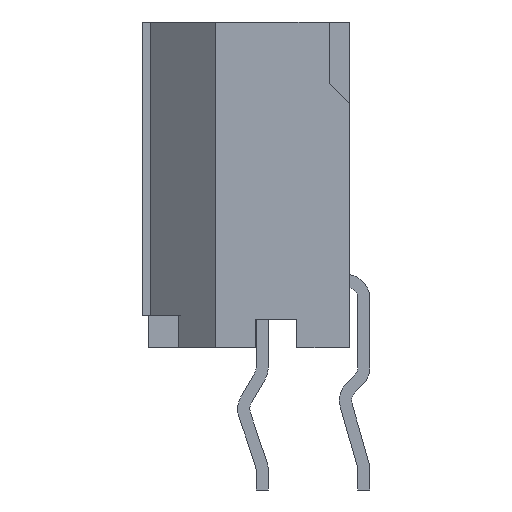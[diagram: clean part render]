
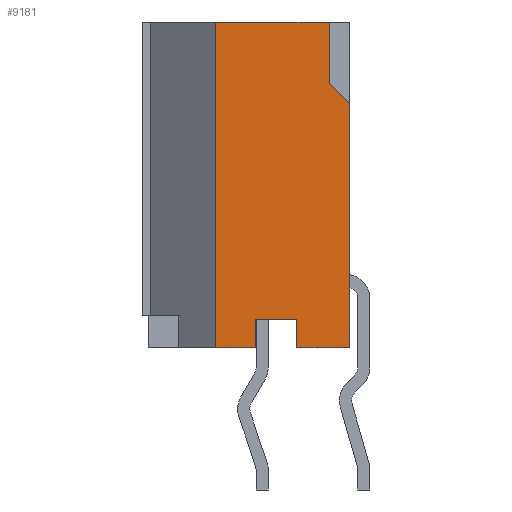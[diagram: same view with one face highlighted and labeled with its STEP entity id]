
A CAD part, left-side view. The second image highlights one B-rep face of the part: STEP entity #9181.
In plain terms, the highlighted planar face has unit normal (-1, 0, 0).
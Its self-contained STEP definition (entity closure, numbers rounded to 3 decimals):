
#21=DIRECTION('',(0.,-1.,0.));
#22=VECTOR('',#21,1.3);
#23=CARTESIAN_POINT('',(-7.325,1.3,-4.));
#24=LINE('',#23,#22);
#61=DIRECTION('',(0.,-1.,0.));
#62=VECTOR('',#61,1.);
#63=CARTESIAN_POINT('',(-7.325,3.3,-4.));
#64=LINE('',#63,#62);
#321=DIRECTION('',(0.,0.,1.));
#322=VECTOR('',#321,6.);
#323=CARTESIAN_POINT('',(-7.325,0.,-4.));
#324=LINE('',#323,#322);
#637=DIRECTION('',(0.,0.,-1.));
#638=VECTOR('',#637,1.5);
#639=CARTESIAN_POINT('',(-7.325,0.5,4.));
#640=LINE('',#639,#638);
#641=DIRECTION('',(0.,-0.707,-0.707));
#642=VECTOR('',#641,0.707);
#643=CARTESIAN_POINT('',(-7.325,0.5,2.5));
#644=LINE('',#643,#642);
#645=DIRECTION('',(0.,0.,1.));
#646=VECTOR('',#645,0.7);
#647=CARTESIAN_POINT('',(-7.325,1.3,-4.));
#648=LINE('',#647,#646);
#649=DIRECTION('',(0.,-1.,0.));
#650=VECTOR('',#649,1.);
#651=CARTESIAN_POINT('',(-7.325,2.3,-3.3));
#652=LINE('',#651,#650);
#653=DIRECTION('',(0.,0.,1.));
#654=VECTOR('',#653,0.7);
#655=CARTESIAN_POINT('',(-7.325,2.3,-4.));
#656=LINE('',#655,#654);
#657=DIRECTION('',(0.,0.,1.));
#658=VECTOR('',#657,8.);
#659=CARTESIAN_POINT('',(-7.325,3.3,-4.));
#660=LINE('',#659,#658);
#1057=DIRECTION('',(0.,-1.,0.));
#1058=VECTOR('',#1057,2.8);
#1059=CARTESIAN_POINT('',(-7.325,3.3,4.));
#1060=LINE('',#1059,#1058);
#6467=CARTESIAN_POINT('',(-7.325,3.3,4.));
#6468=VERTEX_POINT('',#6467);
#6469=CARTESIAN_POINT('',(-7.325,3.3,-4.));
#6470=VERTEX_POINT('',#6469);
#6479=CARTESIAN_POINT('',(-7.325,2.3,-4.));
#6480=CARTESIAN_POINT('',(-7.325,2.3,-3.3));
#6481=VERTEX_POINT('',#6479);
#6482=VERTEX_POINT('',#6480);
#6483=CARTESIAN_POINT('',(-7.325,1.3,-3.3));
#6484=VERTEX_POINT('',#6483);
#6485=CARTESIAN_POINT('',(-7.325,1.3,-4.));
#6486=VERTEX_POINT('',#6485);
#6491=CARTESIAN_POINT('',(-7.325,0.,-4.));
#6492=VERTEX_POINT('',#6491);
#6878=CARTESIAN_POINT('',(-7.325,0.5,4.));
#6879=CARTESIAN_POINT('',(-7.325,0.5,2.5));
#6880=VERTEX_POINT('',#6878);
#6881=VERTEX_POINT('',#6879);
#6882=CARTESIAN_POINT('',(-7.325,0.,2.));
#6883=VERTEX_POINT('',#6882);
#9159=CARTESIAN_POINT('',(-7.325,3.3,-4.));
#9160=DIRECTION('',(-1.,0.,0.));
#9161=DIRECTION('',(0.,-1.,0.));
#9162=AXIS2_PLACEMENT_3D('',#9159,#9160,#9161);
#9163=PLANE('',#9162);
#9164=ORIENTED_EDGE('',*,*,#8987,.T.);
#9165=ORIENTED_EDGE('',*,*,#8794,.T.);
#9166=ORIENTED_EDGE('',*,*,#8701,.F.);
#9167=ORIENTED_EDGE('',*,*,#8511,.F.);
#9169=ORIENTED_EDGE('',*,*,#9168,.T.);
#9171=ORIENTED_EDGE('',*,*,#9170,.F.);
#9173=ORIENTED_EDGE('',*,*,#9172,.F.);
#9174=ORIENTED_EDGE('',*,*,#8547,.F.);
#9176=ORIENTED_EDGE('',*,*,#9175,.T.);
#9178=ORIENTED_EDGE('',*,*,#9177,.T.);
#9179=EDGE_LOOP('',(#9164,#9165,#9166,#9167,#9169,#9171,#9173,#9174,#9176,
#9178));
#9180=FACE_OUTER_BOUND('',#9179,.F.);
#9181=ADVANCED_FACE('',(#9180),#9163,.T.);
#8511=EDGE_CURVE('',#6486,#6492,#24,.T.);
#8547=EDGE_CURVE('',#6470,#6481,#64,.T.);
#8701=EDGE_CURVE('',#6492,#6883,#324,.T.);
#8794=EDGE_CURVE('',#6881,#6883,#644,.T.);
#8987=EDGE_CURVE('',#6880,#6881,#640,.T.);
#9168=EDGE_CURVE('',#6486,#6484,#648,.T.);
#9170=EDGE_CURVE('',#6482,#6484,#652,.T.);
#9172=EDGE_CURVE('',#6481,#6482,#656,.T.);
#9175=EDGE_CURVE('',#6470,#6468,#660,.T.);
#9177=EDGE_CURVE('',#6468,#6880,#1060,.T.);
